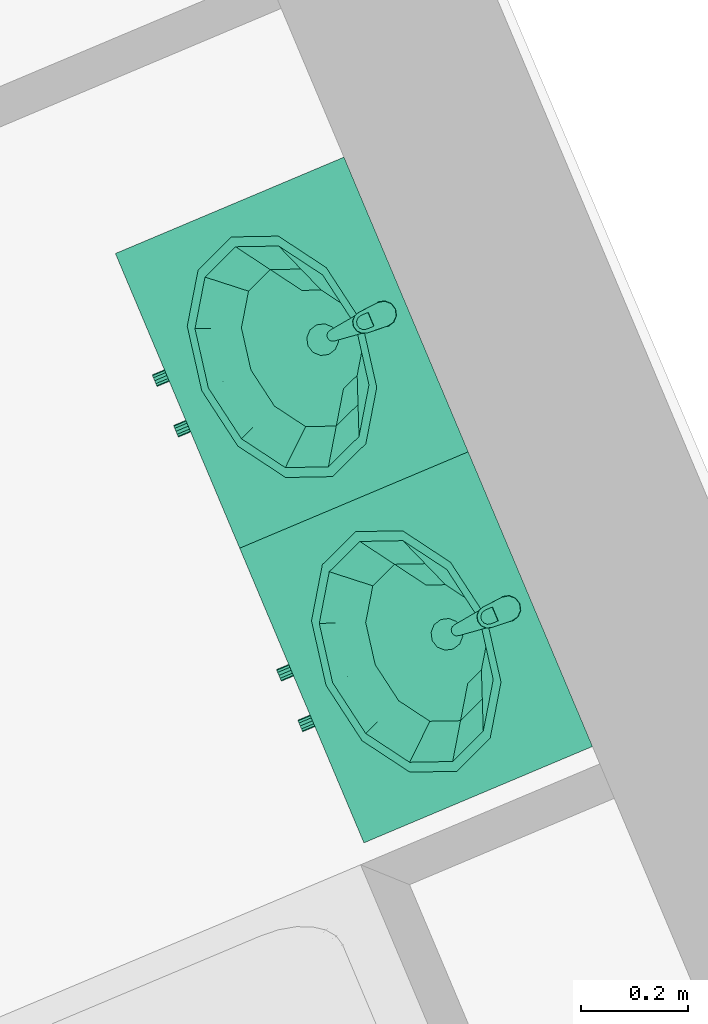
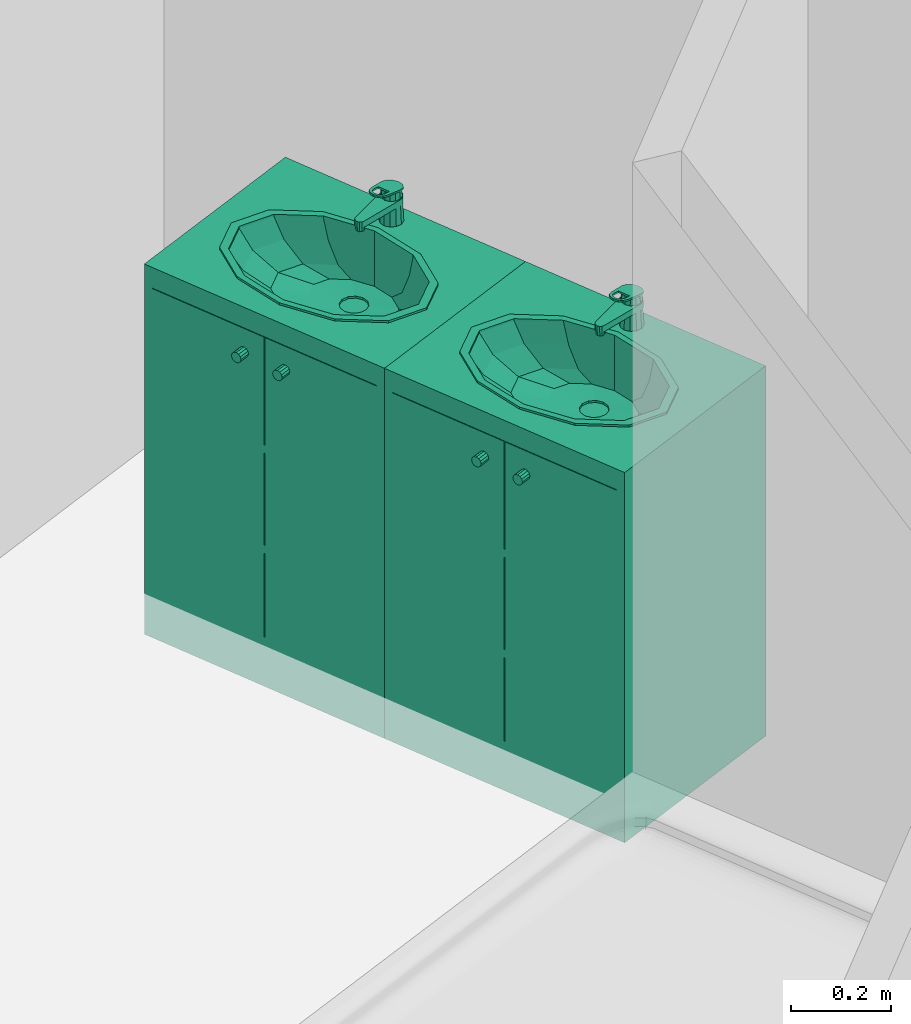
# One storey, part 138 of 195: 2 distribution elements.
"""IFC2X3 building model written with IfcOpenShell, lengths in metres."""

from ifc_helpers import new_model, entity, si_unit, converted_unit, derived_unit, money_unit, direction, frame, origin_with_axes, place, context, subcontext, project, spatial, open_shell, faceted_brep, surface_model, source, transform, mapped, type_object, element, save


model = new_model("IFC2X3")

# Units and contexts
model_context = context("Model", 3, precision=1e-05, world=origin_with_axes(), true_north=direction((0.0, 1.0)))
body_context = subcontext(model_context, "Body", "Model", "MODEL_VIEW")
ifc_project = project(units=[si_unit("LENGTHUNIT", "METRE"), si_unit("AREAUNIT", "SQUARE_METRE"), si_unit("VOLUMEUNIT", "CUBIC_METRE"), converted_unit("PLANEANGLEUNIT", "DEGREE", entity("IfcPlaneAngleMeasure", 0.0174532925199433), si_unit("PLANEANGLEUNIT", "RADIAN"), dimensions=[0, 0, 0, 0, 0, 0, 0]), money_unit("CHF"), converted_unit("TIMEUNIT", "Year", entity("IfcTimeMeasure", 31557600.0), si_unit("TIMEUNIT", "SECOND"), dimensions=[0, 0, 1, 0, 0, 0, 0]), si_unit("MASSUNIT", "GRAM", prefix="KILO"), si_unit("THERMODYNAMICTEMPERATUREUNIT", "DEGREE_CELSIUS"), si_unit("LUMINOUSINTENSITYUNIT", "LUMEN"), si_unit("ENERGYUNIT", "JOULE", prefix="MEGA"), derived_unit("THERMALCONDUCTANCEUNIT", [(si_unit("POWERUNIT", "WATT"), 1), (si_unit("LENGTHUNIT", "METRE"), -1), (si_unit("THERMODYNAMICTEMPERATUREUNIT", "KELVIN"), -1)]), derived_unit("SPECIFICHEATCAPACITYUNIT", [(si_unit("ENERGYUNIT", "JOULE"), 1), (si_unit("MASSUNIT", "GRAM", prefix="KILO"), -1), (si_unit("THERMODYNAMICTEMPERATUREUNIT", "KELVIN"), -1)]), derived_unit("MASSDENSITYUNIT", [(si_unit("MASSUNIT", "GRAM", prefix="KILO"), 1), (si_unit("VOLUMEUNIT", "CUBIC_METRE"), -1)])], contexts=[model_context])

# Site, building, storey
site_placement = place(None, origin_with_axes())
site = spatial("IfcSite", under=ifc_project, at=site_placement, Name="Site", CompositionType="ELEMENT")
building_placement = place(site_placement, origin_with_axes())
building = spatial("IfcBuilding", under=site, at=building_placement, Name="Bâtiment", CompositionType="ELEMENT")
storey_placement = place(building_placement, origin_with_axes())
storey = spatial("IfcBuildingStorey", under=building, at=storey_placement, Name="rdc", CompositionType="ELEMENT", Elevation=0.0)

# Distribution elements
distribution_element_type = type_object("IfcDistributionElementType", Name="Lavabo sur meuble 27")
shared_shape = source(origin_with_axes(), body_context, "Body", "SurfaceModel", [
    faceted_brep([(0.0, 0.0, 0.0), (0.6, 0.0, 0.0), (0.6, 0.0, 0.1), (0.0, 0.0, 0.1), (0.0, 0.4653441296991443, 0.0), (0.6, 0.4653441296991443, 0.0), (0.6, 0.4653441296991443, 0.1), (0.0, 0.4653441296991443, 0.1)], [[[0, 1, 2, 3]], [[0, 4, 5, 1]], [[1, 5, 6, 2]], [[3, 2, 6, 7]], [[4, 0, 3, 7]], [[5, 4, 7, 6]]]),
    faceted_brep([(0.0, 0.0, 0.1), (0.02, 0.0, 0.1), (0.02, 0.0, 0.12), (0.0, 0.0, 0.12), (0.0, 0.4653441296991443, 0.1), (0.02, 0.4653441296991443, 0.1), (0.58, 0.4653441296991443, 0.1), (0.6, 0.4653441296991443, 0.1), (0.6, 0.0, 0.1), (0.58, 0.0, 0.1), (0.58, 0.0, 0.12), (0.6, 0.0, 0.12), (0.6, 0.4653441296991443, 0.12), (0.58, 0.4653441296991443, 0.12), (0.02, 0.4653441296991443, 0.12), (0.0, 0.4653441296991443, 0.12)], [[[0, 1, 2, 3]], [[0, 4, 5, 6, 7, 8, 9, 1]], [[1, 9, 10, 2]], [[3, 2, 10, 11, 12, 13, 14, 15]], [[4, 0, 3, 15]], [[5, 4, 15, 14]], [[6, 5, 14, 13]], [[7, 6, 13, 12]], [[8, 7, 12, 11]], [[9, 8, 11, 10]]]),
    faceted_brep([(0.0, 0.0, 0.12), (0.02, 0.0, 0.12), (0.02, 0.0, 0.85), (0.0, 0.0, 0.85), (0.0, 0.4653441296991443, 0.12), (0.6, 0.4653441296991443, 0.12), (0.6, 0.0, 0.12), (0.58, 0.0, 0.12), (0.58, 0.4453441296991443, 0.12), (0.02, 0.4453441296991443, 0.12), (0.02, 0.4453441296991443, 0.85), (0.58, 0.4453441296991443, 0.85), (0.58, 0.0, 0.85), (0.6, 0.0, 0.85), (0.6, 0.4653441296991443, 0.85), (0.0, 0.4653441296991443, 0.85)], [[[0, 1, 2, 3]], [[0, 4, 5, 6, 7, 8, 9, 1]], [[1, 9, 10, 2]], [[3, 2, 10, 11, 12, 13, 14, 15]], [[4, 0, 3, 15]], [[5, 4, 15, 14]], [[6, 5, 14, 13]], [[7, 6, 13, 12]], [[8, 7, 12, 11]], [[9, 8, 11, 10]]]),
    faceted_brep([(0.58, 0.0, 0.3233333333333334), (0.58, 0.4453441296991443, 0.3233333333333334), (0.58, 0.4453441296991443, 0.3433333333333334), (0.58, 0.0, 0.3433333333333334), (0.02, 0.0, 0.3233333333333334), (0.02, 0.4453441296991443, 0.3233333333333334), (0.02, 0.4453441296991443, 0.3433333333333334), (0.02, 0.0, 0.3433333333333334)], [[[0, 1, 2, 3]], [[0, 4, 5, 1]], [[1, 5, 6, 2]], [[3, 2, 6, 7]], [[4, 0, 3, 7]], [[5, 4, 7, 6]]]),
    faceted_brep([(0.58, 0.0, 0.5666666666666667), (0.58, 0.4453441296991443, 0.5666666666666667), (0.58, 0.4453441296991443, 0.5866666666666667), (0.58, 0.0, 0.5866666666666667), (0.02, 0.0, 0.5666666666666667), (0.02, 0.4453441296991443, 0.5666666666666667), (0.02, 0.4453441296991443, 0.5866666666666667), (0.02, 0.0, 0.5866666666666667)], [[[0, 1, 2, 3]], [[0, 4, 5, 1]], [[1, 5, 6, 2]], [[3, 2, 6, 7]], [[4, 0, 3, 7]], [[5, 4, 7, 6]]]),
    faceted_brep([(0.0, 0.4653441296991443, 0.85), (0.6, 0.4653441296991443, 0.85), (0.6, 0.0, 0.85), (0.0, 0.0, 0.85), (0.4124999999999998, 0.08276825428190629, 0.85), (0.4948557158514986, 0.137672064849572, 0.85), (0.525, 0.2126720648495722, 0.85), (0.4948557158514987, 0.2876720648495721, 0.85), (0.4125, 0.3425758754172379, 0.85), (0.3, 0.3626720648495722, 0.85), (0.1875000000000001, 0.342575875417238, 0.85), (0.1051442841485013, 0.2876720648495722, 0.85), (0.07499999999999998, 0.2126720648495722, 0.85), (0.1051442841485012, 0.1376720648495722, 0.85), (0.1874999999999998, 0.08276825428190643, 0.85), (0.3, 0.06267206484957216, 0.85), (0.0, 0.4653441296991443, 0.9), (0.6, 0.4653441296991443, 0.9), (0.6, 0.0, 0.9), (0.0, 0.0, 0.9), (0.4124999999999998, 0.08276825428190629, 0.9), (0.4948557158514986, 0.137672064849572, 0.9), (0.525, 0.2126720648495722, 0.9), (0.4948557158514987, 0.2876720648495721, 0.9), (0.4125, 0.3425758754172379, 0.9), (0.3, 0.3626720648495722, 0.9), (0.1875000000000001, 0.342575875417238, 0.9), (0.1051442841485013, 0.2876720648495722, 0.9), (0.07499999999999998, 0.2126720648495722, 0.9), (0.1051442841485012, 0.1376720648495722, 0.9), (0.1874999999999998, 0.08276825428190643, 0.9), (0.3, 0.06267206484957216, 0.9)], [[[0, 1, 2, 3], [4, 5, 6, 7, 8, 9, 10, 11, 12, 13, 14, 15]], [[0, 16, 17, 1]], [[1, 17, 18, 2]], [[2, 18, 19, 3]], [[3, 19, 16, 0]], [[20, 21, 5, 4]], [[21, 22, 6, 5]], [[22, 23, 7, 6]], [[23, 24, 8, 7]], [[24, 25, 9, 8]], [[25, 26, 10, 9]], [[26, 27, 11, 10]], [[27, 28, 12, 11]], [[28, 29, 13, 12]], [[29, 30, 14, 13]], [[30, 31, 15, 14]], [[31, 20, 4, 15]], [[18, 17, 16, 19], [24, 23, 22, 21, 20, 31, 30, 29, 28, 27, 26, 25]]]),
    faceted_brep([(0.544, 0.2126720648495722, 0.905), (0.544, 0.2126720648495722, 0.9), (0.511310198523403, 0.2943684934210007, 0.9), (0.511310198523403, 0.2943684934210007, 0.905), (0.5113101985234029, 0.1309756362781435, 0.905), (0.5113101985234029, 0.1309756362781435, 0.9), (0.4219999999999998, 0.07116969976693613, 0.9), (0.3, 0.04927920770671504, 0.9), (0.1779999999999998, 0.07116969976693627, 0.9), (0.08868980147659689, 0.1309756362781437, 0.9), (0.05599999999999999, 0.2126720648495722, 0.9), (0.088689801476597, 0.2943684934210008, 0.9), (0.178, 0.3541744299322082, 0.9), (0.3, 0.3760649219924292, 0.9), (0.422, 0.3541744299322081, 0.9), (0.524, 0.2126720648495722, 0.9), (0.4939896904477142, 0.2876720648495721, 0.9), (0.412, 0.3425758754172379, 0.9), (0.3, 0.3626720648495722, 0.9), (0.1880000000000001, 0.342575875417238, 0.9), (0.1060103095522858, 0.2876720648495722, 0.9), (0.07599999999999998, 0.2126720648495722, 0.9), (0.1060103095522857, 0.1376720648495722, 0.9), (0.1879999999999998, 0.08276825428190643, 0.9), (0.3, 0.06267206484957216, 0.9), (0.4119999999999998, 0.08276825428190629, 0.9), (0.4939896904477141, 0.137672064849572, 0.9), (0.422, 0.3541744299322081, 0.905), (0.3, 0.3760649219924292, 0.905), (0.178, 0.3541744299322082, 0.905), (0.088689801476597, 0.2943684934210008, 0.905), (0.05599999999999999, 0.2126720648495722, 0.905), (0.08868980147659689, 0.1309756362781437, 0.905), (0.1779999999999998, 0.07116969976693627, 0.905), (0.3, 0.04927920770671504, 0.905), (0.4219999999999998, 0.07116969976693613, 0.905), (0.524, 0.2126720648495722, 0.905), (0.4939896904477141, 0.137672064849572, 0.905), (0.4119999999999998, 0.08276825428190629, 0.905), (0.3, 0.06267206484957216, 0.905), (0.1879999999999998, 0.08276825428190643, 0.905), (0.1060103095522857, 0.1376720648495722, 0.905), (0.07599999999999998, 0.2126720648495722, 0.905), (0.1060103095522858, 0.2876720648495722, 0.905), (0.1880000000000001, 0.342575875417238, 0.905), (0.3, 0.3626720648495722, 0.905), (0.412, 0.3425758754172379, 0.905), (0.4939896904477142, 0.2876720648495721, 0.905)], [[[0, 1, 2, 3]], [[4, 5, 1, 0]], [[1, 5, 6, 7, 8, 9, 10, 11, 12, 13, 14, 2], [15, 16, 17, 18, 19, 20, 21, 22, 23, 24, 25, 26]], [[3, 2, 14, 27]], [[0, 3, 27, 28, 29, 30, 31, 32, 33, 34, 35, 4], [36, 37, 38, 39, 40, 41, 42, 43, 44, 45, 46, 47]], [[35, 6, 5, 4]], [[34, 7, 6, 35]], [[33, 8, 7, 34]], [[32, 9, 8, 33]], [[31, 10, 9, 32]], [[30, 11, 10, 31]], [[29, 12, 11, 30]], [[28, 13, 12, 29]], [[27, 14, 13, 28]], [[47, 16, 15, 36]], [[46, 17, 16, 47]], [[45, 18, 17, 46]], [[44, 19, 18, 45]], [[43, 20, 19, 44]], [[42, 21, 20, 43]], [[41, 22, 21, 42]], [[40, 23, 22, 41]], [[39, 24, 23, 40]], [[38, 25, 24, 39]], [[37, 26, 25, 38]], [[36, 15, 26, 37]]]),
    surface_model("IfcShellBasedSurfaceModel", [(0.3, 0.3626720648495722, 0.9), (0.3, 0.3626720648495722, 0.848), (0.4008, 0.3445854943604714, 0.848), (0.412, 0.342575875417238, 0.9), (0.1879999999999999, 0.3425758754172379, 0.9), (0.1991999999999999, 0.3445854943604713, 0.848), (0.4745907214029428, 0.2951720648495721, 0.848), (0.4939896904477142, 0.2876720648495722, 0.9), (0.1060103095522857, 0.2876720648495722, 0.9), (0.1254092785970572, 0.2951720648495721, 0.848), (0.5016, 0.2276720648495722, 0.848), (0.524, 0.2126720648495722, 0.9), (0.07599999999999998, 0.2126720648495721, 0.9), (0.09839999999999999, 0.2276720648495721, 0.848), (0.4745907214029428, 0.1601720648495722, 0.848), (0.4939896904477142, 0.1376720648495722, 0.9), (0.1060103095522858, 0.1376720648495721, 0.9), (0.1254092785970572, 0.1601720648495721, 0.848), (0.4008, 0.1107586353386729, 0.848), (0.412, 0.08276825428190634, 0.9), (0.1879999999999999, 0.08276825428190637, 0.9), (0.1992, 0.110758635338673, 0.848), (0.3, 0.09267206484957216, 0.848), (0.3, 0.06267206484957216, 0.9)], [open_shell([[[0, 1, 2, 3]], [[4, 5, 1, 0]], [[3, 2, 6, 7]], [[8, 9, 5, 4]], [[7, 6, 10, 11]], [[12, 13, 9, 8]], [[11, 10, 14, 15]], [[16, 17, 13, 12]], [[15, 14, 18, 19]], [[20, 21, 17, 16]], [[19, 18, 22, 23]], [[23, 22, 21, 20]]])]),
    surface_model("IfcShellBasedSurfaceModel", [(0.3, 0.3626720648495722, 0.848), (0.3, 0.3626720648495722, 0.7959999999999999), (0.379632, 0.3483836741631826, 0.7959999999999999), (0.4008, 0.3445854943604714, 0.848), (0.1991999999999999, 0.3445854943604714, 0.848), (0.2203679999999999, 0.3483836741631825, 0.7959999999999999), (0.4379266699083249, 0.3093470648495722, 0.7959999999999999), (0.4745907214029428, 0.2951720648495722, 0.848), (0.1254092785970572, 0.2951720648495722, 0.848), (0.1620733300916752, 0.3093470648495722, 0.7959999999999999), (0.459264, 0.2560220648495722, 0.7959999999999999), (0.5016, 0.2276720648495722, 0.848), (0.09839999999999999, 0.2276720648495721, 0.848), (0.140736, 0.2560220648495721, 0.7959999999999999), (0.4379266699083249, 0.2026970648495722, 0.7959999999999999), (0.4745907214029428, 0.1601720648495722, 0.848), (0.1254092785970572, 0.1601720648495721, 0.848), (0.1620733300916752, 0.2026970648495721, 0.7959999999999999), (0.379632, 0.1636604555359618, 0.7959999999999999), (0.4008, 0.1107586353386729, 0.848), (0.1992, 0.110758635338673, 0.848), (0.220368, 0.1636604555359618, 0.7959999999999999), (0.3, 0.1493720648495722, 0.7959999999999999), (0.3, 0.09267206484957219, 0.848)], [open_shell([[[0, 1, 2, 3]], [[4, 5, 1, 0]], [[3, 2, 6, 7]], [[8, 9, 5, 4]], [[7, 6, 10, 11]], [[12, 13, 9, 8]], [[11, 10, 14, 15]], [[16, 17, 13, 12]], [[15, 14, 18, 19]], [[20, 21, 17, 16]], [[19, 18, 22, 23]], [[23, 22, 21, 20]]])]),
    surface_model("IfcShellBasedSurfaceModel", [(0.3, 0.3626720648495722, 0.7959999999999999), (0.3, 0.3626720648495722, 0.7699999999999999), (0.35016816, 0.3536703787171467, 0.7699999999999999), (0.379632, 0.3483836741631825, 0.7959999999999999), (0.2203679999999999, 0.3483836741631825, 0.7959999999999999), (0.2498318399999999, 0.3536703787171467, 0.7699999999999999), (0.3868938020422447, 0.3290773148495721, 0.7699999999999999), (0.4379266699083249, 0.3093470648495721, 0.7959999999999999), (0.1620733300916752, 0.3093470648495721, 0.7959999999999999), (0.2131061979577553, 0.3290773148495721, 0.7699999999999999), (0.40033632, 0.2954825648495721, 0.7699999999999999), (0.459264, 0.2560220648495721, 0.7959999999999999), (0.140736, 0.2560220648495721, 0.7959999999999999), (0.19966368, 0.2954825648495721, 0.7699999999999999), (0.3868938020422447, 0.2618878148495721, 0.7699999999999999), (0.4379266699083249, 0.2026970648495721, 0.7959999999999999), (0.1620733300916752, 0.2026970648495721, 0.7959999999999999), (0.2131061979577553, 0.2618878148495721, 0.7699999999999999), (0.35016816, 0.2372947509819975, 0.7699999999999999), (0.379632, 0.1636604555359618, 0.7959999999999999), (0.220368, 0.1636604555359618, 0.7959999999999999), (0.24983184, 0.2372947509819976, 0.7699999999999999), (0.3, 0.2282930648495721, 0.7699999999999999), (0.3, 0.1493720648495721, 0.7959999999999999)], [open_shell([[[0, 1, 2, 3]], [[4, 5, 1, 0]], [[3, 2, 6, 7]], [[8, 9, 5, 4]], [[7, 6, 10, 11]], [[12, 13, 9, 8]], [[11, 10, 14, 15]], [[16, 17, 13, 12]], [[15, 14, 18, 19]], [[20, 21, 17, 16]], [[19, 18, 22, 23]], [[23, 22, 21, 20]]])]),
    surface_model("IfcShellBasedSurfaceModel", [(0.3, 0.3626720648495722, 0.7699999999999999), (0.315, 0.3214633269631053, 0.7629999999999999), (0.35016816, 0.3536703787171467, 0.7699999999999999), (0.3, 0.3254825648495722, 0.7629999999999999), (0.3259807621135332, 0.3104825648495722, 0.7629999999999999), (0.2498318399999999, 0.3536703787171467, 0.7699999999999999), (0.3868938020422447, 0.3290773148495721, 0.7699999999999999), (0.285, 0.3214633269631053, 0.7629999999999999), (0.33, 0.2954825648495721, 0.7629999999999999), (0.2131061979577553, 0.3290773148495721, 0.7699999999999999), (0.40033632, 0.2954825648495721, 0.7699999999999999), (0.2740192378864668, 0.3104825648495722, 0.7629999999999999), (0.3259807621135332, 0.2804825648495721, 0.7629999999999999), (0.19966368, 0.2954825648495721, 0.7699999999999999), (0.3868938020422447, 0.2618878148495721, 0.7699999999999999), (0.27, 0.2954825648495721, 0.7629999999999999), (0.315, 0.269501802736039, 0.7629999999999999), (0.2131061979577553, 0.2618878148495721, 0.7699999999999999), (0.35016816, 0.2372947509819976, 0.7699999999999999), (0.2740192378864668, 0.2804825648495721, 0.7629999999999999), (0.3, 0.2654825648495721, 0.7629999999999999), (0.24983184, 0.2372947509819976, 0.7699999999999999), (0.3, 0.2282930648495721, 0.7699999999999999), (0.285, 0.269501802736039, 0.7629999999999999)], [open_shell([[[0, 1, 2]], [[0, 3, 1]], [[2, 1, 4]], [[5, 3, 0]], [[2, 4, 6]], [[5, 7, 3]], [[6, 4, 8]], [[9, 7, 5]], [[6, 8, 10]], [[9, 11, 7]], [[10, 8, 12]], [[13, 11, 9]], [[10, 12, 14]], [[13, 15, 11]], [[14, 12, 16]], [[17, 15, 13]], [[14, 16, 18]], [[17, 19, 15]], [[18, 16, 20]], [[21, 19, 17]], [[18, 20, 22]], [[21, 23, 19]], [[22, 20, 23]], [[22, 23, 21]]])]),
    surface_model("IfcShellBasedSurfaceModel", [(0.33, 0.2954825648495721, 0.763), (0.33, 0.2954825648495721, 0.758), (0.3259807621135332, 0.3104825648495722, 0.758), (0.3259807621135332, 0.3104825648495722, 0.763), (0.3259807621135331, 0.2804825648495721, 0.763), (0.3259807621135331, 0.2804825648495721, 0.758), (0.3149999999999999, 0.269501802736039, 0.758), (0.3, 0.2654825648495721, 0.758), (0.285, 0.269501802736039, 0.758), (0.2740192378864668, 0.2804825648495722, 0.758), (0.27, 0.2954825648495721, 0.758), (0.2740192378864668, 0.3104825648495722, 0.758), (0.285, 0.3214633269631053, 0.758), (0.3, 0.3254825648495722, 0.758), (0.315, 0.3214633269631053, 0.758), (0.315, 0.3214633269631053, 0.763), (0.3149999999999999, 0.269501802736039, 0.763), (0.3, 0.2654825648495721, 0.763), (0.285, 0.269501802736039, 0.763), (0.2740192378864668, 0.2804825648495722, 0.763), (0.27, 0.2954825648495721, 0.763), (0.2740192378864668, 0.3104825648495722, 0.763), (0.285, 0.3214633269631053, 0.763), (0.3, 0.3254825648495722, 0.763)], [open_shell([[[0, 1, 2, 3]], [[4, 5, 1, 0]], [[1, 5, 6, 7, 8, 9, 10, 11, 12, 13, 14, 2]], [[3, 2, 14, 15]], [[16, 6, 5, 4]], [[17, 7, 6, 16]], [[18, 8, 7, 17]], [[19, 9, 8, 18]], [[20, 10, 9, 19]], [[21, 11, 10, 20]], [[22, 12, 11, 21]], [[23, 13, 12, 22]], [[15, 14, 13, 23]]])]),
    faceted_brep([(0.3125, 0.4406587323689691, 0.9), (0.3, 0.4440080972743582, 0.9), (0.3, 0.4402100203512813, 0.9759615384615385), (0.310587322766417, 0.4373458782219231, 0.976507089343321), (0.3216506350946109, 0.4315080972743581, 0.9), (0.325, 0.4190080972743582, 0.9), (0.3216506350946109, 0.4065080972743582, 0.9), (0.3125, 0.3973574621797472, 0.9), (0.3, 0.3940080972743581, 0.9), (0.2875, 0.3973574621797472, 0.9), (0.278349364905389, 0.4065080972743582, 0.9), (0.275, 0.4190080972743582, 0.9), (0.278349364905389, 0.4315080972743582, 0.9), (0.2875, 0.4406587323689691, 0.9), (0.289412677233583, 0.4373458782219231, 0.976507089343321), (0.2817264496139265, 0.4295583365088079, 0.9779904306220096), (0.279, 0.4190080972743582, 0.98), (0.2818996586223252, 0.4085578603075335, 0.9819905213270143), (0.2895858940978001, 0.400970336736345, 0.9834357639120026), (0.3, 0.3982062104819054, 0.9839622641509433), (0.3104141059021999, 0.400970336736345, 0.9834357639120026), (0.3181003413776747, 0.4085578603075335, 0.9819905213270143), (0.321, 0.4190080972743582, 0.98), (0.3182735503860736, 0.4295583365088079, 0.9779904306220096)], [[[0, 1, 2, 3]], [[0, 4, 5, 6, 7, 8, 9, 10, 11, 12, 13, 1]], [[1, 13, 14, 2]], [[3, 2, 14, 15, 16, 17, 18, 19, 20, 21, 22, 23]], [[4, 0, 3, 23]], [[5, 4, 23, 22]], [[6, 5, 22, 21]], [[7, 6, 21, 20]], [[8, 7, 20, 19]], [[9, 8, 19, 18]], [[10, 9, 18, 17]], [[11, 10, 17, 16]], [[12, 11, 16, 15]], [[13, 12, 15, 14]]]),
    faceted_brep([(0.309, 0.3160080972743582, 0.935), (0.3077942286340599, 0.3205080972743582, 0.935), (0.3077942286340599, 0.3205080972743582, 0.9450000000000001), (0.309, 0.3160080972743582, 0.9450000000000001), (0.3077942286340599, 0.3115080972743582, 0.935), (0.3045, 0.3082138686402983, 0.935), (0.3, 0.3070080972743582, 0.935), (0.2955, 0.3082138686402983, 0.935), (0.2922057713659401, 0.3115080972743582, 0.935), (0.291, 0.3160080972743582, 0.935), (0.2922057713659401, 0.3205080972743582, 0.935), (0.2955, 0.3238023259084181, 0.935), (0.3, 0.3250080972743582, 0.935), (0.3045, 0.3238023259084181, 0.935), (0.3045, 0.3238023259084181, 0.9450000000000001), (0.3, 0.3250080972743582, 0.9450000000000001), (0.2955, 0.3238023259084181, 0.9450000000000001), (0.2922057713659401, 0.3205080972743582, 0.9450000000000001), (0.291, 0.3160080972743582, 0.9450000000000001), (0.2922057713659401, 0.3115080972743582, 0.9450000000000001), (0.2955, 0.3082138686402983, 0.9450000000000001), (0.3, 0.3070080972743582, 0.9450000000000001), (0.3045, 0.3082138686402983, 0.9450000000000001), (0.3077942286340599, 0.3115080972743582, 0.9450000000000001)], [[[0, 1, 2, 3]], [[0, 4, 5, 6, 7, 8, 9, 10, 11, 12, 13, 1]], [[1, 13, 14, 2]], [[3, 2, 14, 15, 16, 17, 18, 19, 20, 21, 22, 23]], [[4, 0, 3, 23]], [[5, 4, 23, 22]], [[6, 5, 22, 21]], [[7, 6, 21, 20]], [[8, 7, 20, 19]], [[9, 8, 19, 18]], [[10, 9, 18, 17]], [[11, 10, 17, 16]], [[12, 11, 16, 15]], [[13, 12, 15, 14]]]),
    faceted_brep([(0.2871282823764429, 0.439264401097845, 0.9600000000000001), (0.2782721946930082, 0.4292013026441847, 0.9600000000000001), (0.2761946, 0.4159581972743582, 0.9600000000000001), (0.2890880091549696, 0.3146197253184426, 0.9600000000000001), (0.2909711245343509, 0.3097249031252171, 0.9600000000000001), (0.2949066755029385, 0.3062583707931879, 0.9600000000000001), (0.300000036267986, 0.305008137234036, 0.9600000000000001), (0.3050933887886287, 0.3062584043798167, 0.9600000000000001), (0.309028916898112, 0.3097249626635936, 0.9600000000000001), (0.310912, 0.3146197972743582, 0.9600000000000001), (0.3238053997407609, 0.4159581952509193, 0.9600000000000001), (0.3217278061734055, 0.4292013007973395, 0.9600000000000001), (0.3128717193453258, 0.4392644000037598, 0.9600000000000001), (0.300000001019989, 0.44300807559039, 0.9600000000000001), (0.311, 0.4380606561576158, 0.9600000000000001), (0.3190525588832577, 0.4300080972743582, 0.9600000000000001), (0.322, 0.4190080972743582, 0.9600000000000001), (0.3190525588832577, 0.4080080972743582, 0.9600000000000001), (0.3109999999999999, 0.3999555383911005, 0.9600000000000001), (0.3, 0.3970080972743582, 0.9600000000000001), (0.289, 0.3999555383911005, 0.9600000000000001), (0.2809474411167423, 0.4080080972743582, 0.9600000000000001), (0.278, 0.4190080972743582, 0.9600000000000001), (0.2809474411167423, 0.4300080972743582, 0.9600000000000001), (0.289, 0.4380606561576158, 0.9600000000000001), (0.3, 0.4410080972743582, 0.9600000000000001), (0.2782721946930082, 0.4292013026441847, 0.9450000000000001), (0.2871282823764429, 0.439264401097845, 0.9450000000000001), (0.2761946, 0.4159581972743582, 0.9450000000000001), (0.2890880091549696, 0.3146197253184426, 0.9450000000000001), (0.2909711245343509, 0.3097249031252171, 0.9450000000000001), (0.2949066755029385, 0.3062583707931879, 0.9450000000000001), (0.300000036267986, 0.305008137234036, 0.9450000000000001), (0.3050933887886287, 0.3062584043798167, 0.9450000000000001), (0.309028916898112, 0.3097249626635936, 0.9450000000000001), (0.310912, 0.3146197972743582, 0.9450000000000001), (0.3238053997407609, 0.4159581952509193, 0.9450000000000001), (0.3217278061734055, 0.4292013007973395, 0.9450000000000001), (0.3128717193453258, 0.4392644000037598, 0.9450000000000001), (0.300000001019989, 0.44300807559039, 0.9450000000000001), (0.311375, 0.4387101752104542, 0.9450000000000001), (0.319702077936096, 0.4303830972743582, 0.9450000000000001), (0.32275, 0.4190080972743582, 0.9450000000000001), (0.319702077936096, 0.4076330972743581, 0.9450000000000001), (0.311375, 0.3993060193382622, 0.9450000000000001), (0.3, 0.3962580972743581, 0.9450000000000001), (0.288625, 0.3993060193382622, 0.9450000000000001), (0.280297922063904, 0.4076330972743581, 0.9450000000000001), (0.2772499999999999, 0.4190080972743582, 0.9450000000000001), (0.280297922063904, 0.4303830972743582, 0.9450000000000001), (0.288625, 0.4387101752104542, 0.9450000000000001), (0.3, 0.4417580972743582, 0.9450000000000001)], [[[0, 1, 2, 3, 4, 5, 6, 7, 8, 9, 10, 11, 12, 13], [14, 15, 16, 17, 18, 19, 20, 21, 22, 23, 24, 25]], [[26, 1, 0, 27]], [[28, 2, 1, 26]], [[29, 3, 2, 28]], [[30, 4, 3, 29]], [[31, 5, 4, 30]], [[32, 6, 5, 31]], [[33, 7, 6, 32]], [[34, 8, 7, 33]], [[35, 9, 8, 34]], [[36, 10, 9, 35]], [[37, 11, 10, 36]], [[38, 12, 11, 37]], [[39, 13, 12, 38]], [[27, 0, 13, 39]], [[40, 41, 15, 14]], [[41, 42, 16, 15]], [[42, 43, 17, 16]], [[43, 44, 18, 17]], [[44, 45, 19, 18]], [[20, 19, 45, 46]], [[21, 20, 46, 47]], [[22, 21, 47, 48]], [[23, 22, 48, 49]], [[24, 23, 49, 50]], [[50, 51, 25, 24]], [[51, 40, 14, 25]], [[32, 31, 30, 29, 28, 26, 27, 39, 38, 37, 36, 35, 34, 33], [44, 43, 42, 41, 40, 51, 50, 49, 48, 47, 46, 45]]]),
    faceted_brep([(0.323893, 0.4173155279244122, 0.9803223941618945), (0.3212964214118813, 0.4297828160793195, 0.9779476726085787), (0.3212964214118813, 0.4305312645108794, 0.9818770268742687), (0.323893, 0.4180639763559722, 0.9842517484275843), (0.3209459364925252, 0.377171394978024, 0.9879688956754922), (0.317663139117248, 0.3674937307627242, 0.9898122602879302), (0.3100614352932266, 0.3605443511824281, 0.9911359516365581), (0.2999995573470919, 0.3580224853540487, 0.9916163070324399), (0.289937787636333, 0.3605447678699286, 0.9911358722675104), (0.2823363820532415, 0.3674944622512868, 0.9898121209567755), (0.279054, 0.3771722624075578, 0.9879687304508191), (0.2761069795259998, 0.4173158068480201, 0.9803223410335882), (0.2787037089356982, 0.4297830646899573, 0.9779476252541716), (0.2875283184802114, 0.4390992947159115, 0.976173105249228), (0.3000001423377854, 0.4425400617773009, 0.9755177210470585), (0.3124719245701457, 0.4390991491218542, 0.9761731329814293), (0.314, 0.3934672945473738, 0.9848649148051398), (0.286, 0.3934672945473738, 0.9848649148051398), (0.286, 0.37865166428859, 0.9876869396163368), (0.2878756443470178, 0.3717752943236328, 0.9889967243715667), (0.293, 0.3667414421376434, 0.9899555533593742), (0.3, 0.3648989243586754, 0.9903065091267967), (0.307, 0.3667414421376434, 0.9899555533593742), (0.3121243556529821, 0.3717752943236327, 0.9889967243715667), (0.314, 0.37865166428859, 0.9876869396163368), (0.3124719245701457, 0.4398475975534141, 0.9801024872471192), (0.3000001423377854, 0.4432885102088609, 0.9794470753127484), (0.2875283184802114, 0.4398477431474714, 0.9801024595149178), (0.2787037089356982, 0.4305315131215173, 0.9818769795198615), (0.2761069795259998, 0.4180642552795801, 0.9842516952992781), (0.279054, 0.3779207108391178, 0.991898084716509), (0.2823363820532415, 0.3682429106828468, 0.9937414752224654), (0.289937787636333, 0.3612932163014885, 0.9950652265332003), (0.2999995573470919, 0.3587709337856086, 0.9955456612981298), (0.3100614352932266, 0.3612927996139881, 0.995065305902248), (0.317663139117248, 0.3682421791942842, 0.9937416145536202), (0.3209459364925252, 0.377919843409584, 0.9918982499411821), (0.314, 0.3942157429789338, 0.9887942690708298), (0.314, 0.3794001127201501, 0.9916162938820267), (0.3121243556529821, 0.3725237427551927, 0.9929260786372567), (0.307, 0.3674898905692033, 0.9938849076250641), (0.3, 0.3656473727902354, 0.9942358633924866), (0.293, 0.3674898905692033, 0.9938849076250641), (0.2878756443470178, 0.3725237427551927, 0.9929260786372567), (0.286, 0.3794001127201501, 0.9916162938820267), (0.286, 0.3942157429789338, 0.9887942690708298)], [[[0, 1, 2, 3]], [[0, 4, 5, 6, 7, 8, 9, 10, 11, 12, 13, 14, 15, 1], [16, 17, 18, 19, 20, 21, 22, 23, 24]], [[1, 15, 25, 2]], [[3, 2, 25, 26, 27, 28, 29, 30, 31, 32, 33, 34, 35, 36], [37, 38, 39, 40, 41, 42, 43, 44, 45]], [[4, 0, 3, 36]], [[5, 4, 36, 35]], [[6, 5, 35, 34]], [[7, 6, 34, 33]], [[8, 7, 33, 32]], [[9, 8, 32, 31]], [[10, 9, 31, 30]], [[11, 10, 30, 29]], [[12, 11, 29, 28]], [[13, 12, 28, 27]], [[14, 13, 27, 26]], [[15, 14, 26, 25]], [[17, 16, 37, 45]], [[18, 17, 45, 44]], [[19, 18, 44, 43]], [[20, 19, 43, 42]], [[21, 20, 42, 41]], [[22, 21, 41, 40]], [[23, 22, 40, 39]], [[24, 23, 39, 38]], [[16, 24, 38, 37]]]),
    surface_model("IfcShellBasedSurfaceModel", [(0.001500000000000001, 0.0, 0.1015), (0.001500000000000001, 0.0, 0.8485), (0.2985, 0.0, 0.8485), (0.2985, 0.0, 0.1015)], [open_shell([[[0, 1, 2, 3]]])]),
    faceted_brep([(0.2588923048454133, 0.0, 0.7855), (0.2545, 0.0, 0.7811076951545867), (0.2485, 0.0, 0.7795), (0.2425, 0.0, 0.7811076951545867), (0.2381076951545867, 0.0, 0.7855), (0.2365, 0.0, 0.7915), (0.2381076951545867, 0.0, 0.7975), (0.2425, 0.0, 0.8018923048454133), (0.2485, 0.0, 0.8035), (0.2545, 0.0, 0.8018923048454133), (0.2588923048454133, 0.0, 0.7975), (0.2605, 0.0, 0.7915), (0.2588923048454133, -0.025, 0.7855), (0.2545, -0.025, 0.7811076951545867), (0.2485, -0.025, 0.7795), (0.2425, -0.025, 0.7811076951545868), (0.2381076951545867, -0.025, 0.7855), (0.2365, -0.025, 0.7915), (0.2381076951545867, -0.025, 0.7975), (0.2425, -0.025, 0.8018923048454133), (0.2485, -0.025, 0.8035), (0.2545, -0.025, 0.8018923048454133), (0.2588923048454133, -0.025, 0.7975), (0.2605, -0.025, 0.7915)], [[[0, 1, 2, 3, 4, 5, 6, 7, 8, 9, 10, 11]], [[1, 0, 12, 13]], [[2, 1, 13, 14]], [[3, 2, 14, 15]], [[4, 3, 15, 16]], [[5, 4, 16, 17]], [[6, 5, 17, 18]], [[7, 6, 18, 19]], [[8, 7, 19, 20]], [[9, 8, 20, 21]], [[10, 9, 21, 22]], [[11, 10, 22, 23]], [[0, 11, 23, 12]], [[12, 23, 22, 21, 20, 19, 18, 17, 16, 15, 14, 13]]]),
    surface_model("IfcShellBasedSurfaceModel", [(0.5985, 0.0, 0.1015), (0.3015000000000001, 0.0, 0.1015), (0.3015000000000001, 0.0, 0.8485), (0.5985, 0.0, 0.8485)], [open_shell([[[0, 1, 2, 3]]])]),
    faceted_brep([(0.3411076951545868, 0.0, 0.7855), (0.3395, 0.0, 0.7915), (0.3411076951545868, 0.0, 0.7975), (0.3455, 0.0, 0.8018923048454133), (0.3515, 0.0, 0.8035), (0.3575, 0.0, 0.8018923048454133), (0.3618923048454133, 0.0, 0.7975), (0.3635, 0.0, 0.7915), (0.3618923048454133, 0.0, 0.7855), (0.3575, 0.0, 0.7811076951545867), (0.3515, 0.0, 0.7795), (0.3455, 0.0, 0.7811076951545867), (0.3411076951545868, -0.025, 0.7855), (0.3395, -0.025, 0.7915), (0.3411076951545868, -0.025, 0.7975), (0.3455, -0.025, 0.8018923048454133), (0.3515, -0.025, 0.8035), (0.3575, -0.025, 0.8018923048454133), (0.3618923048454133, -0.025, 0.7975), (0.3635, -0.025, 0.7915), (0.3618923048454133, -0.025, 0.7855), (0.3575, -0.025, 0.7811076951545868), (0.3515, -0.025, 0.7795), (0.3455, -0.025, 0.7811076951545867)], [[[0, 1, 2, 3, 4, 5, 6, 7, 8, 9, 10, 11]], [[0, 12, 13, 1]], [[1, 13, 14, 2]], [[2, 14, 15, 3]], [[3, 15, 16, 4]], [[4, 16, 17, 5]], [[5, 17, 18, 6]], [[6, 18, 19, 7]], [[7, 19, 20, 8]], [[8, 20, 21, 9]], [[9, 21, 22, 10]], [[10, 22, 23, 11]], [[11, 23, 12, 0]], [[12, 23, 22, 21, 20, 19, 18, 17, 16, 15, 14, 13]]]),
])
for number, where, z_axis, x_axis, name in (
    (1, (9571.09804824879, -1046.294297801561, 57.59999999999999), (0.0, 0.0, 1.0), (0.38856690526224, -0.9214205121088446, 0.0), "Obj.-004"),
    (2, (9570.86490810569, -1045.741445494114, 57.59999999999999), (0.0, 0.0, 1.0), (0.38856690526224, -0.9214205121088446, 0.0), "Obj.-004"),
):
    element("IfcDistributionElement", number, at=place(storey_placement, frame(where, z_axis=z_axis, x_axis=x_axis)), inside=storey, type_object=distribution_element_type, Name=name, context=body_context, shape_type="MappedRepresentation", body=[
        mapped(shared_shape, transform((0.0, 0.0, 0.0))),
    ])

save(model, "model.ifc")
